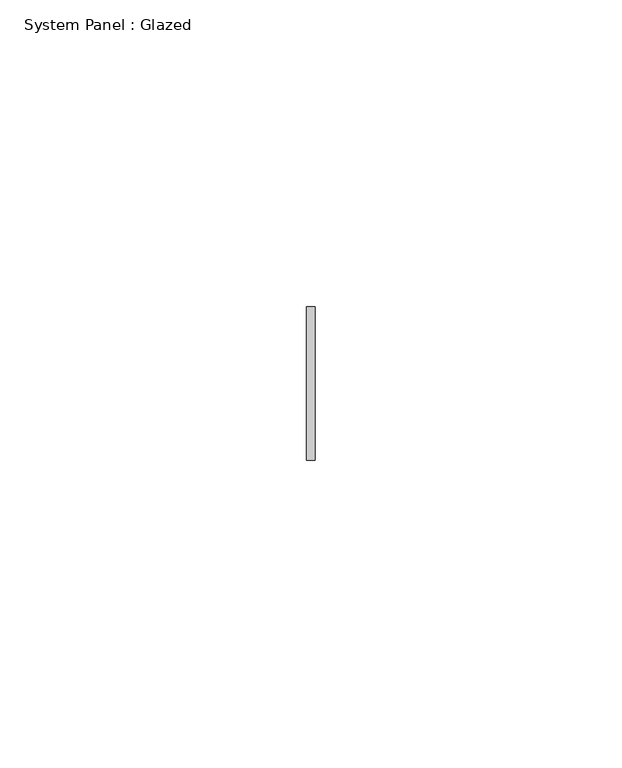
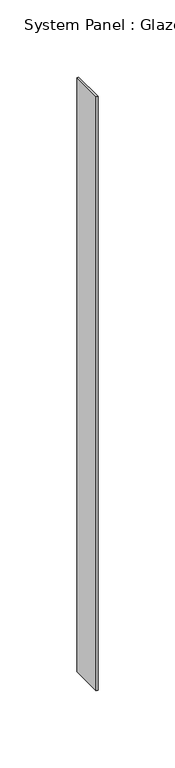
"""IFC4 building model written with IfcOpenShell, lengths in millimetres: plate geometry, System Panel : Glazed."""

from ifc_helpers import new_model, si_unit, origin, origin_with_axes, place, context, project, spatial, polyline, outline, extrude, source, transform, mapped, element, save


def system_panel_glazed_e756f155(model_context):
    return source(origin(), model_context, "Body", "SweptSolid", [
        extrude(outline(polyline([(0.6581169, -12.5), (-0.6581169, -12.5), (-0.6581169, 12.5), (0.6581169, 12.5), (0.6581169, -12.5)])), origin_with_axes(), (0.0, 0.0, 1.0), 470.0),
    ])


if __name__ == "__main__":
    model = new_model("IFC4")
    model_context = context("Model", 3, world=origin())
    ifc_project = project(units=[si_unit("LENGTHUNIT", "METRE", prefix="MILLI")], contexts=[model_context])
    site = spatial("IfcSite", under=ifc_project)
    building = spatial("IfcBuilding", under=site)
    placement = place(None, origin())
    system_panel_glazed_shape = system_panel_glazed_e756f155(model_context)
    element("IfcPlate", 1, ObjectType="System Panel : Glazed", at=placement, inside=building, context=model_context, shape_type="MappedRepresentation", body=[
        mapped(system_panel_glazed_shape, transform((0.0, 0.0, 0.0), x_axis=(1.0, 0.0, 0.0), y_axis=(0.0, 1.0, 0.0), z_axis=(0.0, 0.0, 1.0))),
    ])
    save(model, "model.ifc")
